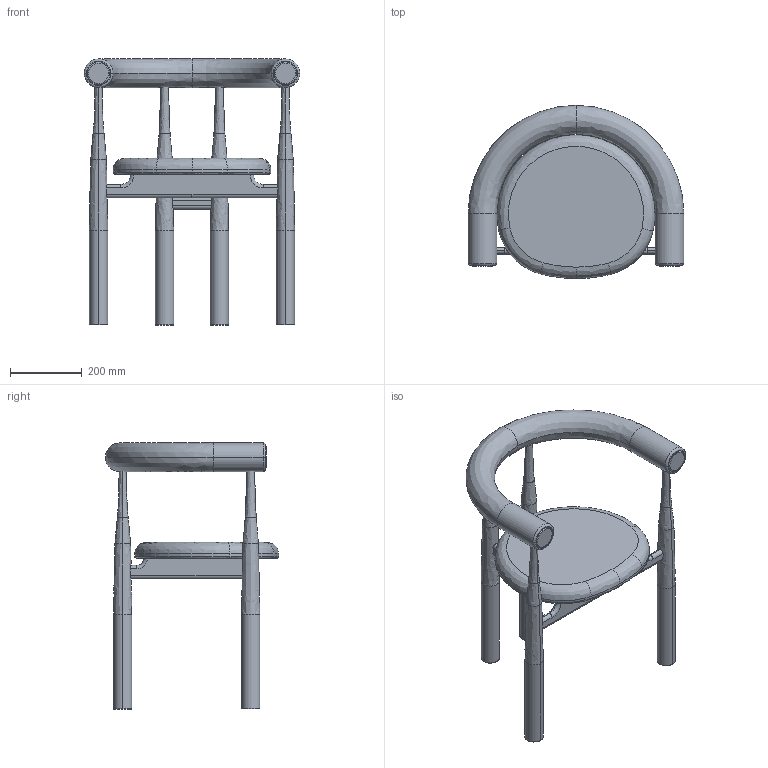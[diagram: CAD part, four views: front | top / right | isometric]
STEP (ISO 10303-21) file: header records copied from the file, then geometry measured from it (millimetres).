
FILE_DESCRIPTION(/* description */ (''),/* implementation_level */ '2;1');
FILE_NAME(/* name */ 'Bukowski Chair Fully Upholstered',/* time_stamp */ '2025-07-01T10:37:19+02:00',/* author */ (''),/* organization */ (''),/* preprocessor_version */ 'ST-DEVELOPER v19.2',/* originating_system */ 'Rhino 8.19',/* authorisation */ '');
FILE_SCHEMA (('CONFIG_CONTROL_DESIGN'));
Length unit declared in the file: millimetre
Products named in the file (16): Document; 2025.01.25 418 9005 Upholstered backrest, End cap assembly5; 2025.01.25 418 9005 Upholstered backrest, End cap; 2025.01.25 418 9005 Upholstered backrest, End cap foam; 2025.01.25 418 9005 Upholstered backrest, End cap assembly; 2025.01.25 418 9005 Upholstered backrest, End cap foam2; 2025.01.25 418 9005 Upholstered backrest, foam; 418 9003; 418 9009; 418 9008; 418 9001N; 418 9004(V); 418 90034; 418 9007N4; 418 9002; 418 9004(R)
Bounding box: 600 x 481.73 x 740.57 mm (x, y, z)
Volume: 16768616.9 mm3; surface area: 1333921 mm2
Topology: 20 solids, 20 shells, 269 faces, 582 edges, 359 vertices
Faces by surface type: cylinder 106, plane 85, bspline 78
Entity records: 12805 total; most frequent: CARTESIAN_POINT 6598, ORIENTED_EDGE 1016, DIRECTION 794, EDGE_CURVE 508, AXIS2_PLACEMENT_3D 476, VERTEX_POINT 310, TRIMMED_CURVE 271, CIRCLE 271
